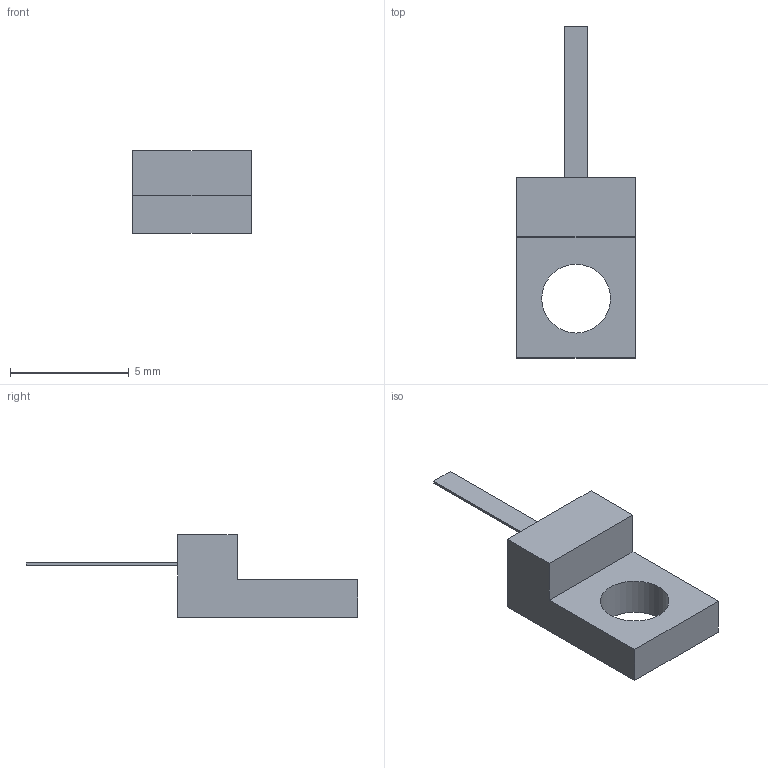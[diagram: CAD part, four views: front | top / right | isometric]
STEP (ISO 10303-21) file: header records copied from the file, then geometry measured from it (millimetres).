
FILE_DESCRIPTION(('STEP AP203'), '1');
FILE_NAME('P1-170-10-00', '', ('UNSPECIFIED'), ('UNSPECIFIED'), 'ASCON STEP Converter 1.6', 'ASCON Math Kernel', '');
FILE_SCHEMA(('CONFIG_CONTROL_DESIGN'));
Length unit declared in the file: millimetre
Bounding box: 5 x 14 x 3.5 mm (x, y, z)
Volume: 74.6 mm3; surface area: 160.3 mm2
Topology: 1 solids, 1 shells, 14 faces, 33 edges, 22 vertices
Faces by surface type: plane 13, cylinder 1
Full cylindrical faces by diameter (mm): 2.9 x1
Entity records: 554 total; most frequent: CARTESIAN_POINT 69, DIRECTION 64, ORIENTED_EDGE 64, EDGE_CURVE 32, LINE 30, VECTOR 30, VERTEX_POINT 22, EDGE_LOOP 18
